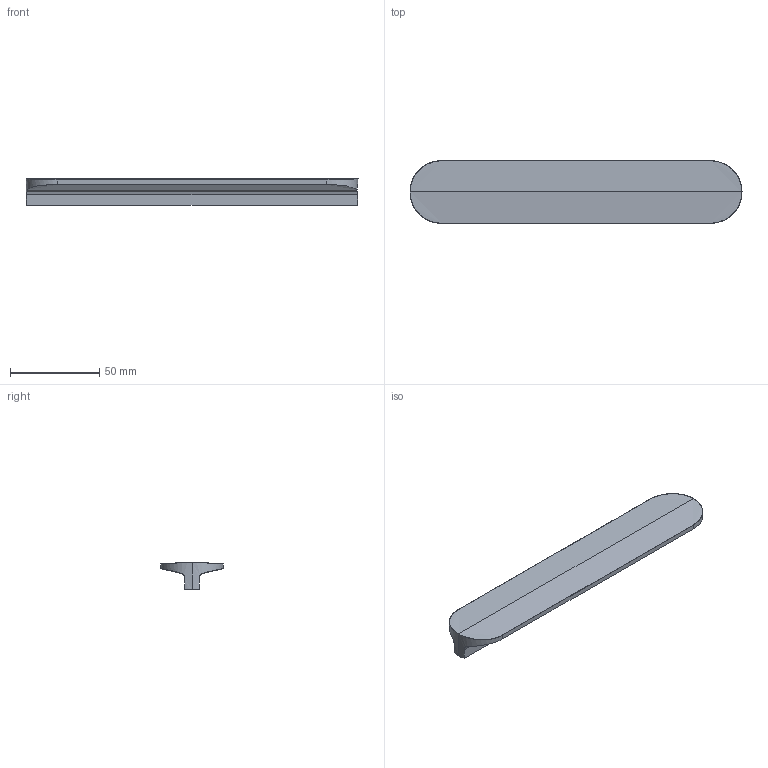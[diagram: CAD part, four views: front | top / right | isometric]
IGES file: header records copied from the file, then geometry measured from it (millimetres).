
Start section: C
Global section: file name: 8312-168RE6.igs; native system: By Siemens PLM Incorporated; preprocessor: XPlus GENERIC/IGES 16.0.42; author: Author; organization: Title; date: 20220504.143409; units: millimetre
Bounding box: 186 x 35 x 15 mm (x, y, z)
Surface area: 17100.3 mm2 (no closed solid volume)
Topology: 0 solids, 0 shells, 29 faces, 138 edges, 138 vertices
Faces by surface type: bspline 29
